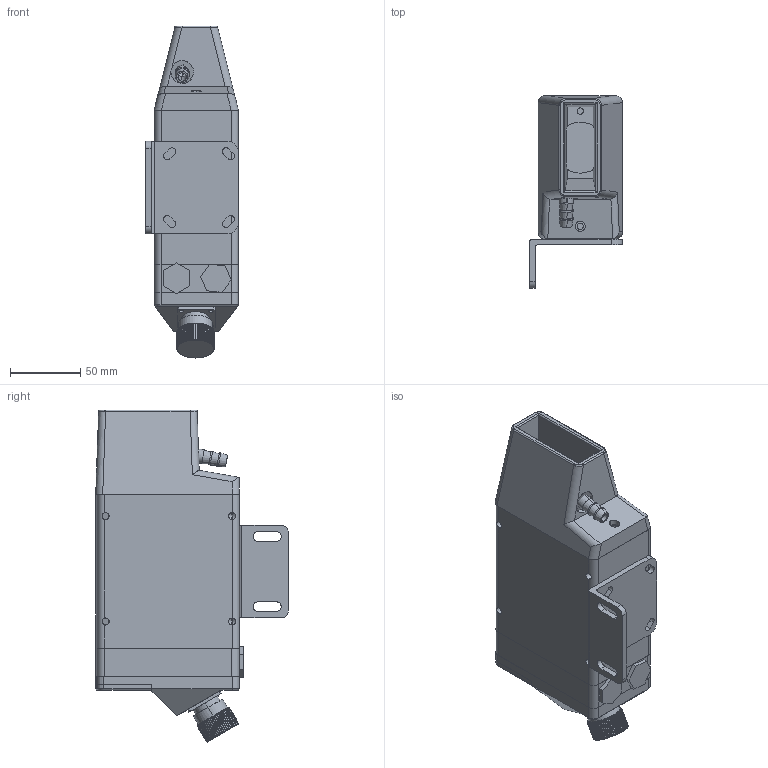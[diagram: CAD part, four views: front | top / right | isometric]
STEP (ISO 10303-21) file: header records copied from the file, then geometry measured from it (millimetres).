
FILE_DESCRIPTION (( 'STEP AP214' ), '1' );
FILE_NAME ('V Series LC STEP.STEP', '2013-05-29T08:26:14', ( '' ), ( '' ), 'SwSTEP 2.0', 'SolidWorks 2011', '' );
FILE_SCHEMA (( 'AUTOMOTIVE_DESIGN' ));
Length unit declared in the file: millimetre
Products named in the file (13): Platen MD_??; Housing Z MD; Equerre de fix; connecteur; bouchon pg9; ref delta; ensemble joue; Raccord eau A15023; verre vD40 x 1; Tubus V-Y; B14785-1_??; B14785-2_??; V Series LC STEP
Assembly tree (13 placements, depth 3):
  V Series LC STEP
    ensemble joue
      Tubus V-Y
      Raccord eau A15023
      verre vD40 x 1
    Housing Z MD
    bouchon pg9  x2
    Equerre de fix
    B14785-1_??
    ref delta
    B14785-2_??
    Platen MD_??
    connecteur
Bounding box: 66.03 x 137 x 236.26 mm (x, y, z)
Volume: 965592.1 mm3; surface area: 155677.4 mm2
Topology: 12 solids, 15 shells, 1431 faces, 3803 edges, 2486 vertices
Faces by surface type: plane 928, cylinder 279, bspline 142, cone 76, torus 6
Entity records: 48926 total; most frequent: CARTESIAN_POINT 13423, ORIENTED_EDGE 7470, DIRECTION 6209, EDGE_CURVE 3735, VERTEX_POINT 2466, LINE 2445, VECTOR 2445, AXIS2_PLACEMENT_3D 1882
